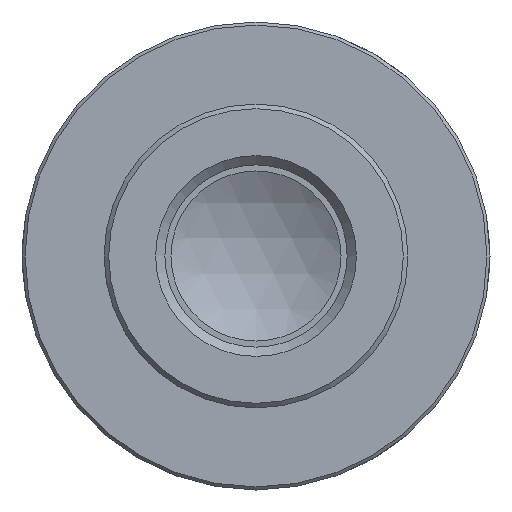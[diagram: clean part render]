
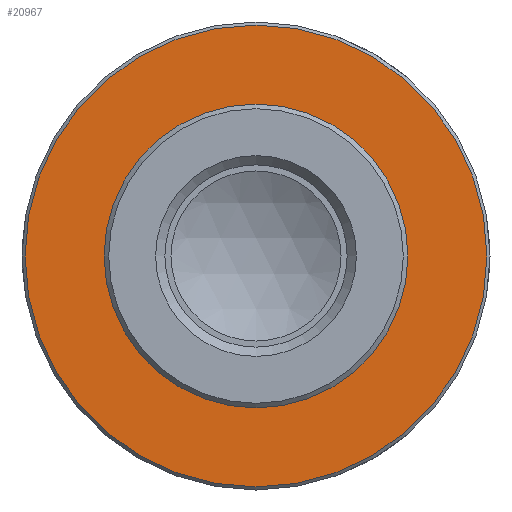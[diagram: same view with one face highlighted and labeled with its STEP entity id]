
A CAD part, left-side view. The second image highlights one B-rep face of the part: STEP entity #20967.
In plain terms, the highlighted planar face has unit normal (-1, 0, 0).
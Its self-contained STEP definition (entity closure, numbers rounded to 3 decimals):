
#1520=FACE_BOUND('',#4470,.T.);
#1944=PLANE('',#22285);
#3191=FACE_OUTER_BOUND('',#4469,.T.);
#4469=EDGE_LOOP('',(#17871));
#4470=EDGE_LOOP('',(#17872,#17873));
#7896=CIRCLE('',#22273,11.75);
#7897=CIRCLE('',#22274,11.75);
#7905=CIRCLE('',#22286,18.996);
#9630=VERTEX_POINT('',#44450);
#9631=VERTEX_POINT('',#44451);
#9639=VERTEX_POINT('',#44475);
#12419=EDGE_CURVE('',#9630,#9631,#7896,.T.);
#12420=EDGE_CURVE('',#9631,#9630,#7897,.T.);
#12431=EDGE_CURVE('',#9639,#9639,#7905,.T.);
#17871=ORIENTED_EDGE('',*,*,#12431,.F.);
#17872=ORIENTED_EDGE('',*,*,#12419,.T.);
#17873=ORIENTED_EDGE('',*,*,#12420,.T.);
#20967=ADVANCED_FACE('',(#3191,#1520),#1944,.T.);
#22273=AXIS2_PLACEMENT_3D('',#44452,#25817,#25818);
#22274=AXIS2_PLACEMENT_3D('',#44453,#25819,#25820);
#22285=AXIS2_PLACEMENT_3D('',#44474,#25844,#25845);
#22286=AXIS2_PLACEMENT_3D('',#44476,#25846,#25847);
#25817=DIRECTION('center_axis',(1.,0.,0.));
#25818=DIRECTION('ref_axis',(0.,0.,
-1.));
#25819=DIRECTION('center_axis',(1.,0.,0.));
#25820=DIRECTION('ref_axis',(0.,0.,
-1.));
#25844=DIRECTION('center_axis',(-1.,0.,0.));
#25845=DIRECTION('ref_axis',(0.,0.,1.));
#25846=DIRECTION('center_axis',(1.,0.,0.));
#25847=DIRECTION('ref_axis',(0.,-1.,0.));
#44450=CARTESIAN_POINT('',(-4.859,11.75,0.));
#44451=CARTESIAN_POINT('',(-4.859,-11.75,0.));
#44452=CARTESIAN_POINT('Origin',(-4.859,0.,
0.));
#44453=CARTESIAN_POINT('Origin',(-4.859,0.,
0.));
#44474=CARTESIAN_POINT('Origin',(-4.859,19.25,0.));
#44475=CARTESIAN_POINT('',(-4.859,18.996,0.));
#44476=CARTESIAN_POINT('Origin',(-4.859,0.,
0.));
